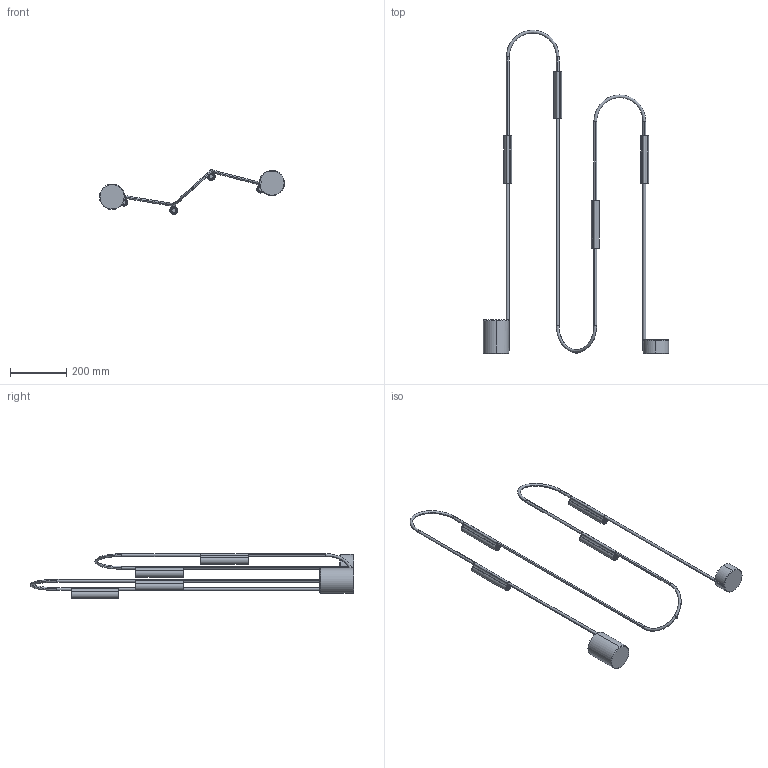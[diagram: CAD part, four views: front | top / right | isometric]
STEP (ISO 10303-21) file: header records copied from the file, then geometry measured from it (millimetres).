
FILE_DESCRIPTION (( 'STEP AP214' ), '1' );
FILE_NAME ('Pop - Floor Large.STEP', '2024-04-08T05:46:53', ( '' ), ( '' ), 'SwSTEP 2.0', 'SolidWorks 2017', '' );
FILE_SCHEMA (( 'AUTOMOTIVE_DESIGN' ));
Length unit declared in the file: millimetre
Products named in the file (1): Pop - Floor Large
Bounding box: 658.36 x 1150 x 158.47 mm (x, y, z)
Volume: 1685156.5 mm3; surface area: 437159.8 mm2
Topology: 25 solids, 25 shells, 685 faces, 1701 edges, 1087 vertices
Faces by surface type: cylinder 346, plane 157, torus 106, cone 54, bspline 22
Entity records: 33090 total; most frequent: CARTESIAN_POINT 8287, DIRECTION 3778, ORIENTED_EDGE 3394, EDGE_CURVE 1697, AXIS2_PLACEMENT_3D 1649, VERTEX_POINT 1087, CIRCLE 985, EDGE_LOOP 886
